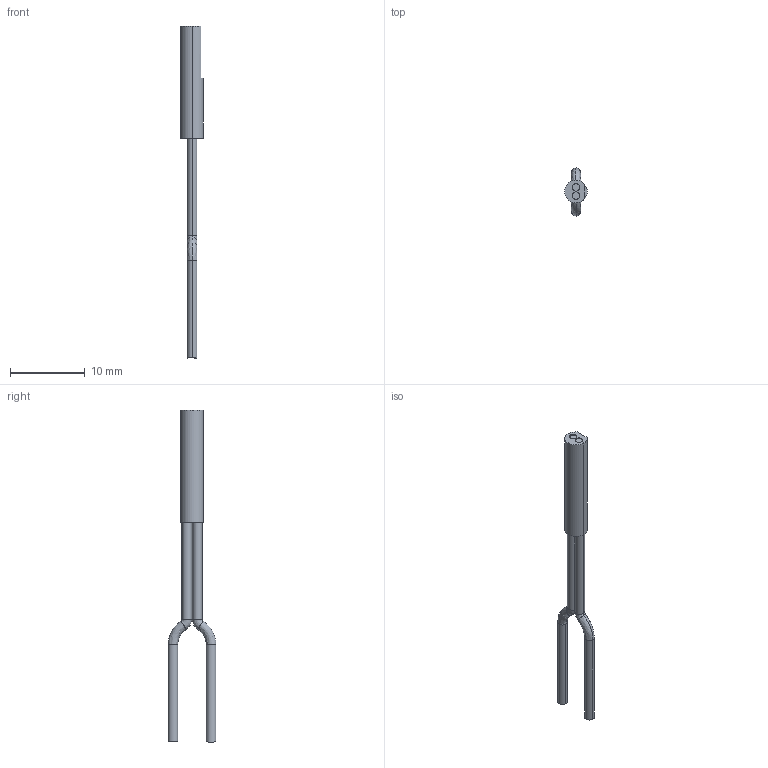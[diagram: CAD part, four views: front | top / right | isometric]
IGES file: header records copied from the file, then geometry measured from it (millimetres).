
Start section: SolidWorks IGES FILE using analytic representation for surfaces
Global section: file name: C:\Documents and Settings\yk0651\デスクトップ\3D_catalog_050904\0_IGES\FD-WS8.IGS; native system: SolidWorks 2004 by SolidWorks Corporation; preprocessor: Version 5.3; author: yk0651; date: 050904.192755; units: millimetre
Bounding box: 3 x 6.4 x 44.37 mm (x, y, z)
Volume: 183 mm3; surface area: 400.4 mm2
Topology: 1 solids, 1 shells, 30 faces, 60 edges, 36 vertices
Faces by surface type: revolution 22, plane 8
